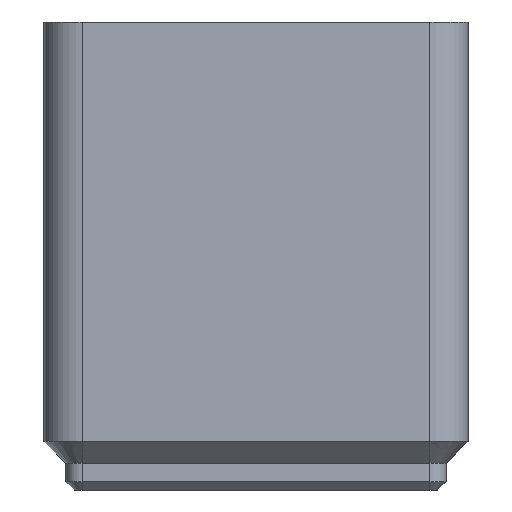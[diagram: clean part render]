
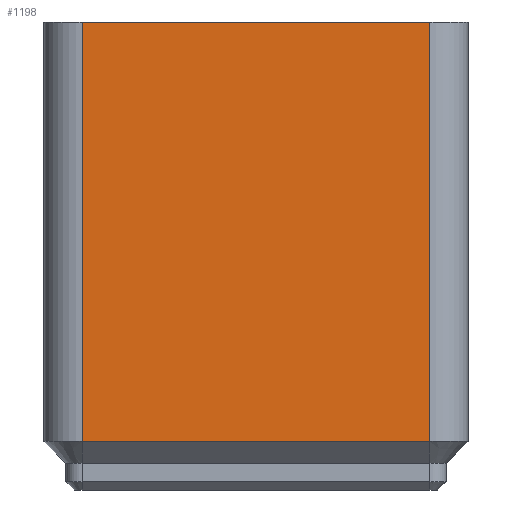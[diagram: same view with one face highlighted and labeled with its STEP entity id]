
A CAD part, left-side view. The second image highlights one B-rep face of the part: STEP entity #1198.
In plain terms, the highlighted planar face has unit normal (-1, 0, 0).
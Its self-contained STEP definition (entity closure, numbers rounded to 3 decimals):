
#416 = PLANE('',#417);
#417 = AXIS2_PLACEMENT_3D('',#418,#419,#420);
#418 = CARTESIAN_POINT('',(-20.75,0.,4.75));
#419 = DIRECTION('',(-0.707,0.,-0.707));
#420 = DIRECTION('',(0.,-1.,-0.));
#793 = VERTEX_POINT('',#794);
#794 = CARTESIAN_POINT('',(-20.75,-17.,4.75));
#812 = EDGE_CURVE('',#793,#813,#815,.T.);
#813 = VERTEX_POINT('',#814);
#814 = CARTESIAN_POINT('',(-20.75,17.,4.75));
#815 = SURFACE_CURVE('',#816,(#820,#827),.PCURVE_S1.);
#816 = LINE('',#817,#818);
#817 = CARTESIAN_POINT('',(-20.75,0.,4.75));
#818 = VECTOR('',#819,1.);
#819 = DIRECTION('',(0.,1.,0.));
#820 = PCURVE('',#416,#821);
#821 = DEFINITIONAL_REPRESENTATION('',(#822),#826);
#822 = LINE('',#823,#824);
#823 = CARTESIAN_POINT('',(0.,0.));
#824 = VECTOR('',#825,1.);
#825 = DIRECTION('',(-1.,0.));
#826 = ( GEOMETRIC_REPRESENTATION_CONTEXT(2) 
PARAMETRIC_REPRESENTATION_CONTEXT() REPRESENTATION_CONTEXT('2D SPACE',''
  ) );
#827 = PCURVE('',#828,#833);
#828 = PLANE('',#829);
#829 = AXIS2_PLACEMENT_3D('',#830,#831,#832);
#830 = CARTESIAN_POINT('',(-20.75,-17.,4.75));
#831 = DIRECTION('',(-1.,0.,0.));
#832 = DIRECTION('',(0.,1.,0.));
#833 = DEFINITIONAL_REPRESENTATION('',(#834),#838);
#834 = LINE('',#835,#836);
#835 = CARTESIAN_POINT('',(17.,0.));
#836 = VECTOR('',#837,1.);
#837 = DIRECTION('',(1.,0.));
#838 = ( GEOMETRIC_REPRESENTATION_CONTEXT(2) 
PARAMETRIC_REPRESENTATION_CONTEXT() REPRESENTATION_CONTEXT('2D SPACE',''
  ) );
#1187 = CYLINDRICAL_SURFACE('',#1188,3.75);
#1188 = AXIS2_PLACEMENT_3D('',#1189,#1190,#1191);
#1189 = CARTESIAN_POINT('',(-17.,-17.,4.75));
#1190 = DIRECTION('',(0.,0.,-1.));
#1191 = DIRECTION('',(-1.,0.,0.));
#1198 = ADVANCED_FACE('',(#1199),#828,.T.);
#1199 = FACE_BOUND('',#1200,.T.);
#1200 = EDGE_LOOP('',(#1201,#1224,#1252,#1278));
#1201 = ORIENTED_EDGE('',*,*,#1202,.T.);
#1202 = EDGE_CURVE('',#793,#1203,#1205,.T.);
#1203 = VERTEX_POINT('',#1204);
#1204 = CARTESIAN_POINT('',(-20.75,-17.,45.8));
#1205 = SURFACE_CURVE('',#1206,(#1210,#1217),.PCURVE_S1.);
#1206 = LINE('',#1207,#1208);
#1207 = CARTESIAN_POINT('',(-20.75,-17.,4.75));
#1208 = VECTOR('',#1209,1.);
#1209 = DIRECTION('',(0.,0.,1.));
#1210 = PCURVE('',#828,#1211);
#1211 = DEFINITIONAL_REPRESENTATION('',(#1212),#1216);
#1212 = LINE('',#1213,#1214);
#1213 = CARTESIAN_POINT('',(0.,0.));
#1214 = VECTOR('',#1215,1.);
#1215 = DIRECTION('',(0.,-1.));
#1216 = ( GEOMETRIC_REPRESENTATION_CONTEXT(2) 
PARAMETRIC_REPRESENTATION_CONTEXT() REPRESENTATION_CONTEXT('2D SPACE',''
  ) );
#1217 = PCURVE('',#1187,#1218);
#1218 = DEFINITIONAL_REPRESENTATION('',(#1219),#1223);
#1219 = LINE('',#1220,#1221);
#1220 = CARTESIAN_POINT('',(6.283,0.));
#1221 = VECTOR('',#1222,1.);
#1222 = DIRECTION('',(0.,-1.));
#1223 = ( GEOMETRIC_REPRESENTATION_CONTEXT(2) 
PARAMETRIC_REPRESENTATION_CONTEXT() REPRESENTATION_CONTEXT('2D SPACE',''
  ) );
#1224 = ORIENTED_EDGE('',*,*,#1225,.T.);
#1225 = EDGE_CURVE('',#1203,#1226,#1228,.T.);
#1226 = VERTEX_POINT('',#1227);
#1227 = CARTESIAN_POINT('',(-20.75,17.,45.8));
#1228 = SURFACE_CURVE('',#1229,(#1233,#1240),.PCURVE_S1.);
#1229 = LINE('',#1230,#1231);
#1230 = CARTESIAN_POINT('',(-20.75,0.,45.8));
#1231 = VECTOR('',#1232,1.);
#1232 = DIRECTION('',(0.,1.,0.));
#1233 = PCURVE('',#828,#1234);
#1234 = DEFINITIONAL_REPRESENTATION('',(#1235),#1239);
#1235 = LINE('',#1236,#1237);
#1236 = CARTESIAN_POINT('',(17.,-41.05));
#1237 = VECTOR('',#1238,1.);
#1238 = DIRECTION('',(1.,0.));
#1239 = ( GEOMETRIC_REPRESENTATION_CONTEXT(2) 
PARAMETRIC_REPRESENTATION_CONTEXT() REPRESENTATION_CONTEXT('2D SPACE',''
  ) );
#1240 = PCURVE('',#1241,#1246);
#1241 = PLANE('',#1242);
#1242 = AXIS2_PLACEMENT_3D('',#1243,#1244,#1245);
#1243 = CARTESIAN_POINT('',(0.,0.,45.8)
  );
#1244 = DIRECTION('',(0.,0.,1.));
#1245 = DIRECTION('',(1.,0.,0.));
#1246 = DEFINITIONAL_REPRESENTATION('',(#1247),#1251);
#1247 = LINE('',#1248,#1249);
#1248 = CARTESIAN_POINT('',(-20.75,0.));
#1249 = VECTOR('',#1250,1.);
#1250 = DIRECTION('',(0.,1.));
#1251 = ( GEOMETRIC_REPRESENTATION_CONTEXT(2) 
PARAMETRIC_REPRESENTATION_CONTEXT() REPRESENTATION_CONTEXT('2D SPACE',''
  ) );
#1252 = ORIENTED_EDGE('',*,*,#1253,.F.);
#1253 = EDGE_CURVE('',#813,#1226,#1254,.T.);
#1254 = SURFACE_CURVE('',#1255,(#1259,#1266),.PCURVE_S1.);
#1255 = LINE('',#1256,#1257);
#1256 = CARTESIAN_POINT('',(-20.75,17.,4.75));
#1257 = VECTOR('',#1258,1.);
#1258 = DIRECTION('',(0.,0.,1.));
#1259 = PCURVE('',#828,#1260);
#1260 = DEFINITIONAL_REPRESENTATION('',(#1261),#1265);
#1261 = LINE('',#1262,#1263);
#1262 = CARTESIAN_POINT('',(34.,0.));
#1263 = VECTOR('',#1264,1.);
#1264 = DIRECTION('',(0.,-1.));
#1265 = ( GEOMETRIC_REPRESENTATION_CONTEXT(2) 
PARAMETRIC_REPRESENTATION_CONTEXT() REPRESENTATION_CONTEXT('2D SPACE',''
  ) );
#1266 = PCURVE('',#1267,#1272);
#1267 = CYLINDRICAL_SURFACE('',#1268,3.75);
#1268 = AXIS2_PLACEMENT_3D('',#1269,#1270,#1271);
#1269 = CARTESIAN_POINT('',(-17.,17.,4.75));
#1270 = DIRECTION('',(0.,0.,-1.));
#1271 = DIRECTION('',(-1.,0.,0.));
#1272 = DEFINITIONAL_REPRESENTATION('',(#1273),#1277);
#1273 = LINE('',#1274,#1275);
#1274 = CARTESIAN_POINT('',(0.,0.));
#1275 = VECTOR('',#1276,1.);
#1276 = DIRECTION('',(0.,-1.));
#1277 = ( GEOMETRIC_REPRESENTATION_CONTEXT(2) 
PARAMETRIC_REPRESENTATION_CONTEXT() REPRESENTATION_CONTEXT('2D SPACE',''
  ) );
#1278 = ORIENTED_EDGE('',*,*,#812,.F.);
